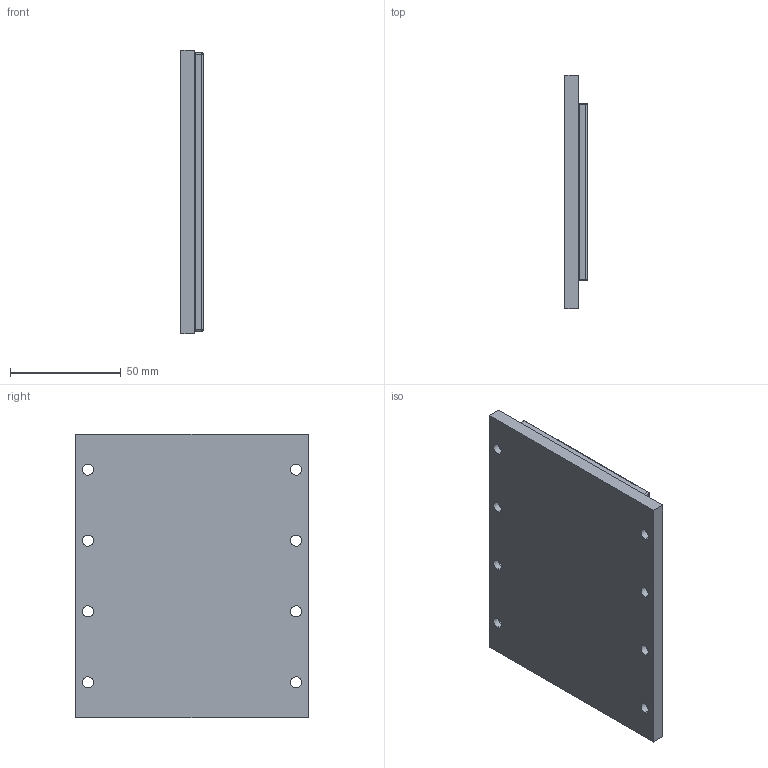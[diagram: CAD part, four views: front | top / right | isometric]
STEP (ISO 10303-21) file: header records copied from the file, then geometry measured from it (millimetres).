
FILE_DESCRIPTION (( 'STEP AP214' ), '1' );
FILE_NAME ('PIXM080-TL128-NC.STEP', '2020-07-30T01:56:12', ( '' ), ( '' ), 'SwSTEP 2.0', 'SolidWorks 2016', '' );
FILE_SCHEMA (( 'AUTOMOTIVE_DESIGN' ));
Length unit declared in the file: inch
Products named in the file (3): 001SM080000001-CUSTOMER_TL128; 001SM080LXXX01_TL128; PIXM080-TL128-NC
Assembly tree (2 placements, depth 2):
  PIXM080-TL128-NC
    001SM080LXXX01_TL128
    001SM080000001-CUSTOMER_TL128
Bounding box: 10 x 105 x 128 mm (x, y, z)
Volume: 118921.5 mm3; surface area: 51927.7 mm2
Topology: 2 solids, 2 shells, 83 faces, 194 edges, 116 vertices
Faces by surface type: cylinder 44, plane 31, bspline 8
Entity records: 3639 total; most frequent: CARTESIAN_POINT 510, DIRECTION 434, ORIENTED_EDGE 372, EDGE_CURVE 186, AXIS2_PLACEMENT_3D 168, VERTEX_POINT 116, EDGE_LOOP 108, LINE 98
